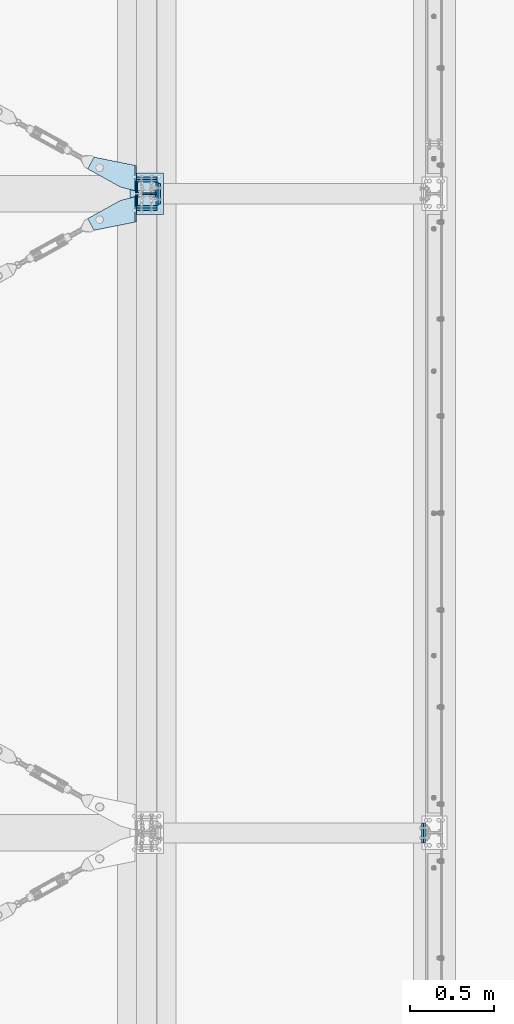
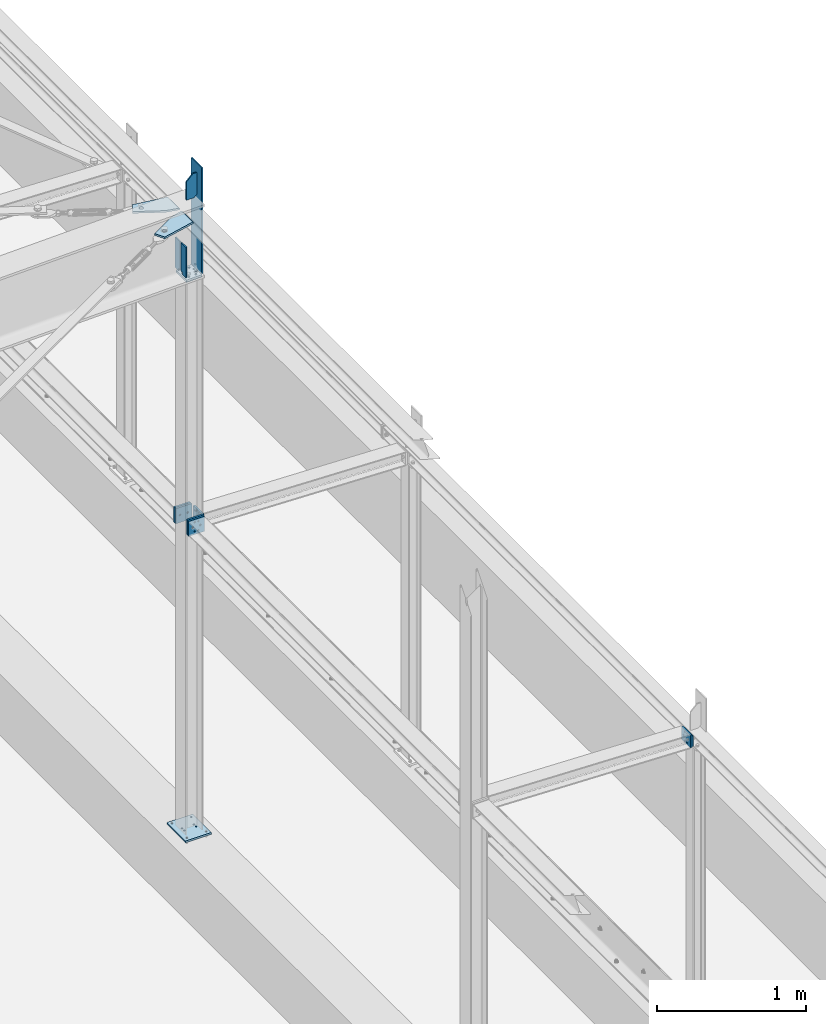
# One storey, part 44 of 476: 15 plates, 60 openings.
"""IFC2X3 building model written with IfcOpenShell, lengths in millimetres."""

from ifc_helpers import new_model, entity, si_unit, converted_unit, point, frame, frame_2d, origin, origin_with_axes, origin_2d_with_axis, place, context, project, spatial, polyline, circle_curve, line_curve, trimmed, segment, composite_curve, circle, outline, extrude, material, layer, layer_set, element, save


model = new_model("IFC2X3")

# Units and contexts
model_context = context("Model", 3, precision=1e-09, world=origin_with_axes())
ifc_project = project(units=[si_unit("LENGTHUNIT", "METRE", prefix="MILLI"), si_unit("AREAUNIT", "SQUARE_METRE"), si_unit("VOLUMEUNIT", "CUBIC_METRE"), converted_unit("PLANEANGLEUNIT", "DEGREE", entity("IfcPlaneAngleMeasure", 0.01745329), si_unit("PLANEANGLEUNIT", "RADIAN"), dimensions=[0, 0, 0, 0, 0, 0, 0])], contexts=[model_context])

# Site, building, storey
site_placement = place(None, origin_with_axes())
site = spatial("IfcSite", under=ifc_project, at=site_placement, Name="mKR Teilneubau & Sanierung BA1 - Ostfildern", CompositionType="ELEMENT")
building_placement = place(site_placement, origin_with_axes())
building = spatial("IfcBuilding", under=site, at=building_placement, Name="Struktur 1", CompositionType="ELEMENT")
storey_placement = place(building_placement, origin_with_axes())
storey = spatial("IfcBuildingStorey", under=building, at=storey_placement, Name="Default Storey", CompositionType="ELEMENT", Elevation=0.0)

# Plate, openings
ifc_material = material(Name="S235JR")
ifc_layer_1 = layer(ifc_material, 15.0)
ifc_layer_set_1 = layer_set([ifc_layer_1], Name="S235JR")
plate_1_placement = place(None, frame((21903.92386925, -13603.67287897, 5627.158981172), z_axis=(-0.030019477, 0.0, 0.999549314), x_axis=(-0.999549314, 0.0, -0.030019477)))
plate_1 = element("IfcPlate", 1, at=plate_1_placement, inside=storey, material=ifc_layer_set_1, Name="-", ObjectType="-", context=model_context, shape_type="SweptSolid", body=[
    extrude(outline(polyline([(0.0, 0.0), (55.140356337, 0.0), (291.381008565, 130.729269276), (252.646618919, 200.726934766), (1e-09, 150.0), (0.0, 0.0)])), origin_with_axes(), (0.0, 0.0, -1.0), 15.0),
])
opening_1_placement = place(plate_1_placement, frame((55.140356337, 0.0, 0.01), z_axis=(0.0, 0.0, 1.0), x_axis=(0.874966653, 0.484183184, 0.0)))
element("IfcOpeningElement", 2, at=opening_1_placement, cuts=plate_1, ObjectType="Opening", context=model_context, shape_type="SweptSolid", body=[
    extrude(outline(composite_curve([segment(trimmed(line_curve((0.0, 0.0), (1.0, 0.0), 45.191234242), [point((0.0, 0.0))], [point((45.191234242, 0.0))], True, "CARTESIAN"), True, "CONTINUOUS"), segment(trimmed(circle_curve(frame_2d((45.191234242, 175.0), x_axis=(-1.0, 0.0)), 175.0), [point((45.191234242, 0.0))], [point((-39.540822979, 21.880835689))], False, "CARTESIAN"), True, "CONTINUOUS"), segment(trimmed(line_curve((-39.540822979, 21.880835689), (0.874966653, -0.484183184), 45.191234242), [point((-39.540822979, 21.880835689))], [point((0.0, 0.0))], True, "CARTESIAN"), True, "CONTINUOUS")], self_intersect=False)), origin(), (0.0, 0.0, -1.0), 15.02),
])
opening_2_placement = place(plate_1_placement, frame((0.0, -0.001, 0.0), z_axis=(0.0, 1.0, 0.0), x_axis=(1.0, 0.0, 0.0)))
element("IfcOpeningElement", 3, at=opening_2_placement, cuts=plate_1, ObjectType="Opening", context=model_context, shape_type="SweptSolid", body=[
    extrude(outline(polyline([(0.0, 0.0), (8.0, 0.0), (0.0, 8.0), (0.0, 0.0)])), origin(), (0.0, 0.0, 1.0), 151.628257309),
])
opening_3_placement = place(plate_1_placement, frame((206.828395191, 129.656694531, -15.499404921), z_axis=(-2.2474e-05, 0.0, -1.0), x_axis=(-1.0, 0.0, 2.2474e-05)))
element("IfcOpeningElement", 4, at=opening_3_placement, cuts=plate_1, ObjectType="Opening", context=model_context, shape_type="SweptSolid", body=[
    extrude(circle(Radius=14.501, at=frame_2d((-12.687891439, 7.021140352), x_axis=(1.0, 0.0))), origin(), (0.0, 0.0, -1.0), 16.000000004),
])

plate_2_placement = place(None, frame((21903.92386925, -13567.67487897, 5627.158981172), z_axis=(0.030019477, 0.0, -0.999549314), x_axis=(-0.999549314, 0.0, -0.030019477)))
plate_2 = element("IfcPlate", 5, at=plate_2_placement, inside=storey, material=ifc_layer_set_1, Name="-", ObjectType="-", context=model_context, shape_type="SweptSolid", body=[
    extrude(outline(polyline([(0.0, 0.0), (55.140356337, 0.0), (291.381008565, 130.729269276), (252.646618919, 200.726934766), (1e-09, 150.0), (0.0, 0.0)])), origin_with_axes(), (0.0, 0.0, 1.0), 15.0),
])
opening_4_placement = place(plate_2_placement, frame((0.0, 0.0, -0.01), z_axis=(0.0, 0.0, 1.0), x_axis=(1.0, 0.0, 0.0)))
element("IfcOpeningElement", 6, at=opening_4_placement, cuts=plate_2, ObjectType="Opening", context=model_context, shape_type="SweptSolid", body=[
    extrude(outline(composite_curve([segment(trimmed(line_curve((55.140356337, 0.0), (0.874966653, 0.484183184), 45.191234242), [point((55.140356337, 0.0))], [point((94.681179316, 21.880835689))], True, "CARTESIAN"), True, "CONTINUOUS"), segment(trimmed(circle_curve(frame_2d((9.949122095, 175.0), x_axis=(-1.0, 0.0)), 175.0), [point((94.681179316, 21.880835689))], [point((9.949122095, 0.0))], False, "CARTESIAN"), True, "CONTINUOUS"), segment(trimmed(line_curve((9.949122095, 0.0), (1.0, 0.0), 45.191234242), [point((9.949122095, 0.0))], [point((55.140356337, 0.0))], True, "CARTESIAN"), True, "CONTINUOUS")], self_intersect=False)), origin(), (0.0, 0.0, 1.0), 15.02),
])
opening_5_placement = place(plate_2_placement, frame((1e-09, 151.607257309, 0.0), z_axis=(0.0, -1.0, 0.0), x_axis=(1.0, 0.0, 0.0)))
element("IfcOpeningElement", 7, at=opening_5_placement, cuts=plate_2, ObjectType="Opening", context=model_context, shape_type="SweptSolid", body=[
    extrude(outline(polyline([(0.0, 0.0), (8.0, 0.0), (0.0, 8.0), (0.0, 0.0)])), origin(), (0.0, 0.0, 1.0), 151.628257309),
])
opening_6_placement = place(plate_2_placement, frame((219.516286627, 136.677834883, 15.499690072), z_axis=(2.2474e-05, 0.0, -1.0), x_axis=(0.874966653, 0.484183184, 1.9664e-05)))
element("IfcOpeningElement", 8, at=opening_6_placement, cuts=plate_2, ObjectType="Opening", context=model_context, shape_type="SweptSolid", body=[
    extrude(circle(Radius=14.501, at=origin_2d_with_axis()), origin(), (0.0, 0.0, 1.0), 16.000000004),
])

ifc_layer_2 = layer(ifc_material, 10.0)
ifc_layer_set_2 = layer_set([ifc_layer_2], Name="S235JR")
plate_3_placement = place(None, frame((21942.108764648, -13580.67387897, 5888.306606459), z_axis=(0.0, 1.0, 0.0), x_axis=(1.0, 0.0, 0.0)))
plate_3 = element("IfcPlate", 9, at=plate_3_placement, inside=storey, material=ifc_layer_set_2, Name="-", ObjectType="-", context=model_context, shape_type="SweptSolid", body=[
    extrude(outline(polyline([(0.0, 0.0), (80.0, 0.0), (80.0, 197.595559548), (0.0, 200.0), (0.0, 0.0)])), origin_with_axes(), (0.0, 0.0, -1.0), 10.0),
])
opening_7_placement = place(plate_3_placement, frame((0.0, 0.0, 0.01), z_axis=(0.0, 0.0, 1.0), x_axis=(1.0, 0.0, 0.0)))
element("IfcOpeningElement", 10, at=opening_7_placement, cuts=plate_3, ObjectType="Opening", context=model_context, shape_type="SweptSolid", body=[
    extrude(outline(polyline([(0.0, 0.0), (50.0, 0.0), (0.0, 50.0), (0.0, 0.0)])), origin(), (0.0, 0.0, -1.0), 10.02),
])
opening_8_placement = place(plate_3_placement, frame((80.0, 197.595559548, 0.01), z_axis=(0.0, 0.0, 1.0), x_axis=(-0.999548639, 0.03004194, 0.0)))
element("IfcOpeningElement", 11, at=opening_8_placement, cuts=plate_3, ObjectType="Opening", context=model_context, shape_type="SweptSolid", body=[
    extrude(outline(polyline([(0.0, 0.0), (20.0, 0.0), (-0.600838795, 19.990972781), (0.0, 0.0)])), origin(), (0.0, 0.0, -1.0), 10.02),
])

plate_4_placement = place(None, frame((22047.108764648, -13585.67387897, 3065.630813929), z_axis=(-1.0, 0.0, 0.0), x_axis=(0.0, 0.0, -1.0)))
plate_4 = element("IfcPlate", 12, at=plate_4_placement, inside=storey, material=ifc_layer_set_1, Name="Endplate", ObjectType="Endplate", context=model_context, shape_type="SweptSolid", body=[
    extrude(outline(polyline([(-52.0, -60.0), (52.0, -60.0), (52.0, 60.0), (-52.0, 60.0), (-52.0, -60.0)])), origin_with_axes(), (0.0, 0.0, 1.0), 15.0),
])
opening_9_placement = place(plate_4_placement, frame((-37.020699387, 14.5, 15.5), z_axis=(0.0, 0.0, -1.0), x_axis=(-1.0, 0.0, 0.0)))
element("IfcOpeningElement", 13, at=opening_9_placement, cuts=plate_4, ObjectType="Opening", context=model_context, shape_type="SweptSolid", body=[
    extrude(circle(Radius=6.001, at=origin_2d_with_axis()), origin(), (0.0, 0.0, 1.0), 16.0),
])
opening_10_placement = place(plate_4_placement, frame((37.020699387, 14.5, 15.5), z_axis=(0.0, 0.0, -1.0), x_axis=(-1.0, 0.0, 0.0)))
element("IfcOpeningElement", 14, at=opening_10_placement, cuts=plate_4, ObjectType="Opening", context=model_context, shape_type="SweptSolid", body=[
    extrude(circle(Radius=6.001, at=origin_2d_with_axis()), origin(), (0.0, 0.0, 1.0), 16.0),
])
opening_11_placement = place(plate_4_placement, frame((37.020699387, -14.5, 15.5), z_axis=(0.0, 0.0, -1.0), x_axis=(-1.0, 0.0, 0.0)))
element("IfcOpeningElement", 15, at=opening_11_placement, cuts=plate_4, ObjectType="Opening", context=model_context, shape_type="SweptSolid", body=[
    extrude(circle(Radius=6.001, at=origin_2d_with_axis()), origin(), (0.0, 0.0, 1.0), 16.0),
])
opening_12_placement = place(plate_4_placement, frame((-37.020699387, -14.5, 15.5), z_axis=(0.0, 0.0, -1.0), x_axis=(-1.0, 0.0, 0.0)))
element("IfcOpeningElement", 16, at=opening_12_placement, cuts=plate_4, ObjectType="Opening", context=model_context, shape_type="SweptSolid", body=[
    extrude(circle(Radius=6.001, at=origin_2d_with_axis()), origin(), (0.0, 0.0, 1.0), 16.0),
])
opening_13_placement = place(plate_4_placement, frame((25.0, -35.0, 15.5), z_axis=(0.0, 0.0, -1.0), x_axis=(0.0, -1.0, 0.0)))
element("IfcOpeningElement", 17, at=opening_13_placement, cuts=plate_4, ObjectType="Opening", context=model_context, shape_type="SweptSolid", body=[
    extrude(circle(Radius=7.001, at=origin_2d_with_axis()), origin(), (0.0, 0.0, 1.0), 16.0),
])
opening_14_placement = place(plate_4_placement, frame((25.0, 35.0, 15.5), z_axis=(0.0, 0.0, -1.0), x_axis=(0.0, 1.0, 0.0)))
element("IfcOpeningElement", 18, at=opening_14_placement, cuts=plate_4, ObjectType="Opening", context=model_context, shape_type="SweptSolid", body=[
    extrude(circle(Radius=7.001, at=origin_2d_with_axis()), origin(), (0.0, 0.0, 1.0), 16.0),
])
opening_15_placement = place(plate_4_placement, frame((-25.0, 35.0, 15.5), z_axis=(0.0, 0.0, -1.0), x_axis=(0.0, 1.0, 0.0)))
element("IfcOpeningElement", 19, at=opening_15_placement, cuts=plate_4, ObjectType="Opening", context=model_context, shape_type="SweptSolid", body=[
    extrude(circle(Radius=7.001, at=origin_2d_with_axis()), origin(), (0.0, 0.0, 1.0), 16.0),
])
opening_16_placement = place(plate_4_placement, frame((-25.0, -35.0, 15.5), z_axis=(0.0, 0.0, -1.0), x_axis=(0.0, -1.0, 0.0)))
element("IfcOpeningElement", 20, at=opening_16_placement, cuts=plate_4, ObjectType="Opening", context=model_context, shape_type="SweptSolid", body=[
    extrude(circle(Radius=7.001, at=origin_2d_with_axis()), origin(), (0.0, 0.0, 1.0), 16.0),
])

plate_5_placement = place(None, frame((22065.608764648, -13460.67387897, 540.0), z_axis=(0.0, 0.0, -1.0), x_axis=(0.0, -1.0, 0.0)))
plate_5 = element("IfcPlate", 21, at=plate_5_placement, inside=storey, material=ifc_layer_set_1, Name="Baseplate", ObjectType="Baseplate", context=model_context, shape_type="SweptSolid", body=[
    extrude(outline(polyline([(0.0, 0.0), (250.0, 0.0), (250.0, 200.0), (0.0, 200.0), (0.0, 0.0)])), origin_with_axes(), (0.0, 0.0, 1.0), 15.0),
])
opening_17_placement = place(plate_5_placement, frame((110.25, 146.0, 15.5), z_axis=(0.0, 0.0, -1.0), x_axis=(0.0, -1.0, 0.0)))
element("IfcOpeningElement", 22, at=opening_17_placement, cuts=plate_5, ObjectType="Opening", context=model_context, shape_type="SweptSolid", body=[
    extrude(circle(Radius=6.001, at=origin_2d_with_axis()), origin(), (0.0, 0.0, 1.0), 16.0),
])
opening_18_placement = place(plate_5_placement, frame((110.25, 54.0, 15.5), z_axis=(0.0, 0.0, -1.0), x_axis=(0.0, -1.0, 0.0)))
element("IfcOpeningElement", 23, at=opening_18_placement, cuts=plate_5, ObjectType="Opening", context=model_context, shape_type="SweptSolid", body=[
    extrude(circle(Radius=6.001, at=origin_2d_with_axis()), origin(), (0.0, 0.0, 1.0), 16.0),
])
opening_19_placement = place(plate_5_placement, frame((139.75, 54.0, 15.5), z_axis=(0.0, 0.0, -1.0), x_axis=(0.0, -1.0, 0.0)))
element("IfcOpeningElement", 24, at=opening_19_placement, cuts=plate_5, ObjectType="Opening", context=model_context, shape_type="SweptSolid", body=[
    extrude(circle(Radius=6.001, at=origin_2d_with_axis()), origin(), (0.0, 0.0, 1.0), 16.0),
])
opening_20_placement = place(plate_5_placement, frame((139.75, 146.0, 15.5), z_axis=(0.0, 0.0, -1.0), x_axis=(0.0, -1.0, 0.0)))
element("IfcOpeningElement", 25, at=opening_20_placement, cuts=plate_5, ObjectType="Opening", context=model_context, shape_type="SweptSolid", body=[
    extrude(circle(Radius=6.001, at=origin_2d_with_axis()), origin(), (0.0, 0.0, 1.0), 16.0),
])
opening_21_placement = place(plate_5_placement, frame((125.0, 100.0, 15.5), z_axis=(0.0, 0.0, -1.0), x_axis=(1.0, 0.0, 0.0)))
element("IfcOpeningElement", 26, at=opening_21_placement, cuts=plate_5, ObjectType="Opening", context=model_context, shape_type="SweptSolid", body=[
    extrude(circle(Radius=6.001, at=frame_2d((100.0, 75.0), x_axis=(1.0, 0.0))), origin(), (0.0, 0.0, 1.0), 16.0),
])
opening_22_placement = place(plate_5_placement, frame((125.0, 100.0, 15.5), z_axis=(0.0, 0.0, -1.0), x_axis=(1.0, 0.0, 0.0)))
element("IfcOpeningElement", 27, at=opening_22_placement, cuts=plate_5, ObjectType="Opening", context=model_context, shape_type="SweptSolid", body=[
    extrude(circle(Radius=6.001, at=frame_2d((-100.0, 75.0), x_axis=(1.0, 0.0))), origin(), (0.0, 0.0, 1.0), 16.0),
])
opening_23_placement = place(plate_5_placement, frame((125.0, 100.0, 15.5), z_axis=(0.0, 0.0, -1.0), x_axis=(1.0, 0.0, 0.0)))
element("IfcOpeningElement", 28, at=opening_23_placement, cuts=plate_5, ObjectType="Opening", context=model_context, shape_type="SweptSolid", body=[
    extrude(circle(Radius=6.001, at=frame_2d((100.0, -75.0), x_axis=(1.0, 0.0))), origin(), (0.0, 0.0, 1.0), 16.0),
])
opening_24_placement = place(plate_5_placement, frame((125.0, 100.0, 15.5), z_axis=(0.0, 0.0, -1.0), x_axis=(1.0, 0.0, 0.0)))
element("IfcOpeningElement", 29, at=opening_24_placement, cuts=plate_5, ObjectType="Opening", context=model_context, shape_type="SweptSolid", body=[
    extrude(circle(Radius=6.001, at=frame_2d((-100.0, -75.0), x_axis=(1.0, 0.0))), origin(), (0.0, 0.0, 1.0), 16.0),
])

plate_6_placement = place(None, frame((21965.608780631, -13485.67387897, 3068.000017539), z_axis=(0.0, -1.0, 0.0), x_axis=(0.0, 0.0, -1.0)))
plate_6 = element("IfcPlate", 30, at=plate_6_placement, inside=storey, material=ifc_layer_set_1, Name="Endplate#1", ObjectType="Endplate#1", context=model_context, shape_type="SweptSolid", body=[
    extrude(outline(polyline([(-62.0, -62.0), (62.0, -62.0), (62.0, 62.0), (-62.0, 62.0), (-62.0, -62.0)])), origin_with_axes(), (0.0, 0.0, 1.0), 15.0),
])
opening_25_placement = place(plate_6_placement, frame((37.0, -14.5, 15.5), z_axis=(0.0, 0.0, -1.0), x_axis=(1.0, 0.0, 0.0)))
element("IfcOpeningElement", 31, at=opening_25_placement, cuts=plate_6, ObjectType="Opening", context=model_context, shape_type="SweptSolid", body=[
    extrude(circle(Radius=6.001, at=origin_2d_with_axis()), origin(), (0.0, 0.0, 1.0), 16.0),
])
opening_26_placement = place(plate_6_placement, frame((-37.0, -14.5, 15.5), z_axis=(0.0, 0.0, -1.0), x_axis=(1.0, 0.0, 0.0)))
element("IfcOpeningElement", 32, at=opening_26_placement, cuts=plate_6, ObjectType="Opening", context=model_context, shape_type="SweptSolid", body=[
    extrude(circle(Radius=6.001, at=origin_2d_with_axis()), origin(), (0.0, 0.0, 1.0), 16.0),
])
opening_27_placement = place(plate_6_placement, frame((-37.0, 14.5, 15.5), z_axis=(0.0, 0.0, -1.0), x_axis=(1.0, 0.0, 0.0)))
element("IfcOpeningElement", 33, at=opening_27_placement, cuts=plate_6, ObjectType="Opening", context=model_context, shape_type="SweptSolid", body=[
    extrude(circle(Radius=6.001, at=origin_2d_with_axis()), origin(), (0.0, 0.0, 1.0), 16.0),
])
opening_28_placement = place(plate_6_placement, frame((37.0, 14.5, 15.5), z_axis=(0.0, 0.0, -1.0), x_axis=(1.0, 0.0, 0.0)))
element("IfcOpeningElement", 34, at=opening_28_placement, cuts=plate_6, ObjectType="Opening", context=model_context, shape_type="SweptSolid", body=[
    extrude(circle(Radius=6.001, at=origin_2d_with_axis()), origin(), (0.0, 0.0, 1.0), 16.0),
])
opening_29_placement = place(plate_6_placement, frame((0.0, -30.0, 15.5), z_axis=(0.0, 0.0, -1.0), x_axis=(0.0, -1.0, 0.0)))
element("IfcOpeningElement", 35, at=opening_29_placement, cuts=plate_6, ObjectType="Opening", context=model_context, shape_type="SweptSolid", body=[
    extrude(circle(Radius=7.001, at=origin_2d_with_axis()), origin(), (0.0, 0.0, 1.0), 16.0),
])
opening_30_placement = place(plate_6_placement, frame((0.0, 30.0, 15.5), z_axis=(0.0, 0.0, -1.0), x_axis=(-1.0, 0.0, 0.0)))
element("IfcOpeningElement", 36, at=opening_30_placement, cuts=plate_6, ObjectType="Opening", context=model_context, shape_type="SweptSolid", body=[
    extrude(circle(Radius=7.001, at=origin_2d_with_axis()), origin(), (0.0, 0.0, 1.0), 16.0),
])

plate_7_placement = place(None, frame((21965.608764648, -13515.67387897, 3068.000017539), z_axis=(0.0, 1.0, 0.0), x_axis=(1.0, 0.0, 0.0)))
plate_7 = element("IfcPlate", 37, at=plate_7_placement, inside=storey, material=ifc_layer_set_1, Name="T-plate", ObjectType="T-plate", context=model_context, shape_type="SweptSolid", body=[
    extrude(outline(polyline([(-62.0, -62.0), (62.0, -62.0), (62.0, 62.0), (-62.0, 62.0), (-62.0, -62.0)])), origin_with_axes(), (0.0, 0.0, 1.0), 15.0),
])
opening_31_placement = place(plate_7_placement, frame((-29.999984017, 0.0, -0.5), z_axis=(0.0, 0.0, 1.0), x_axis=(-1.0, 0.0, 0.0)))
element("IfcOpeningElement", 38, at=opening_31_placement, cuts=plate_7, ObjectType="Opening", context=model_context, shape_type="SweptSolid", body=[
    extrude(circle(Radius=7.001, at=origin_2d_with_axis()), origin(), (0.0, 0.0, 1.0), 16.0),
])
opening_32_placement = place(plate_7_placement, frame((30.000015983, 0.0, -0.5), z_axis=(0.0, 0.0, 1.0), x_axis=(0.0, -1.0, 0.0)))
element("IfcOpeningElement", 39, at=opening_32_placement, cuts=plate_7, ObjectType="Opening", context=model_context, shape_type="SweptSolid", body=[
    extrude(circle(Radius=7.001, at=origin_2d_with_axis()), origin(), (0.0, 0.0, 1.0), 16.0),
])

plate_8_placement = place(None, frame((21965.608780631, -13685.67387897, 3068.000017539), z_axis=(0.0, 1.0, 0.0), x_axis=(0.0, 0.0, -1.0)))
plate_8 = element("IfcPlate", 40, at=plate_8_placement, inside=storey, material=ifc_layer_set_1, Name="Endplate#1", ObjectType="Endplate#1", context=model_context, shape_type="SweptSolid", body=[
    extrude(outline(polyline([(-62.0, -62.0), (62.0, -62.0), (62.0, 62.0), (-62.0, 62.0), (-62.0, -62.0)])), origin_with_axes(), (0.0, 0.0, 1.0), 15.0),
])
opening_33_placement = place(plate_8_placement, frame((37.0, 14.5, 15.5), z_axis=(0.0, 0.0, -1.0), x_axis=(-1.0, 0.0, 0.0)))
element("IfcOpeningElement", 41, at=opening_33_placement, cuts=plate_8, ObjectType="Opening", context=model_context, shape_type="SweptSolid", body=[
    extrude(circle(Radius=6.001, at=origin_2d_with_axis()), origin(), (0.0, 0.0, 1.0), 16.0),
])
opening_34_placement = place(plate_8_placement, frame((-37.0, 14.5, 15.5), z_axis=(0.0, 0.0, -1.0), x_axis=(-1.0, 0.0, 0.0)))
element("IfcOpeningElement", 42, at=opening_34_placement, cuts=plate_8, ObjectType="Opening", context=model_context, shape_type="SweptSolid", body=[
    extrude(circle(Radius=6.001, at=origin_2d_with_axis()), origin(), (0.0, 0.0, 1.0), 16.0),
])
opening_35_placement = place(plate_8_placement, frame((-37.0, -14.5, 15.5), z_axis=(0.0, 0.0, -1.0), x_axis=(-1.0, 0.0, 0.0)))
element("IfcOpeningElement", 43, at=opening_35_placement, cuts=plate_8, ObjectType="Opening", context=model_context, shape_type="SweptSolid", body=[
    extrude(circle(Radius=6.001, at=origin_2d_with_axis()), origin(), (0.0, 0.0, 1.0), 16.0),
])
opening_36_placement = place(plate_8_placement, frame((37.0, -14.5, 15.5), z_axis=(0.0, 0.0, -1.0), x_axis=(-1.0, 0.0, 0.0)))
element("IfcOpeningElement", 44, at=opening_36_placement, cuts=plate_8, ObjectType="Opening", context=model_context, shape_type="SweptSolid", body=[
    extrude(circle(Radius=6.001, at=origin_2d_with_axis()), origin(), (0.0, 0.0, 1.0), 16.0),
])
opening_37_placement = place(plate_8_placement, frame((0.0, 30.0, 15.5), z_axis=(0.0, 0.0, -1.0), x_axis=(-1.0, 0.0, 0.0)))
element("IfcOpeningElement", 45, at=opening_37_placement, cuts=plate_8, ObjectType="Opening", context=model_context, shape_type="SweptSolid", body=[
    extrude(circle(Radius=7.001, at=origin_2d_with_axis()), origin(), (0.0, 0.0, 1.0), 16.0),
])
opening_38_placement = place(plate_8_placement, frame((0.0, -30.0, 15.5), z_axis=(0.0, 0.0, -1.0), x_axis=(0.0, -1.0, 0.0)))
element("IfcOpeningElement", 46, at=opening_38_placement, cuts=plate_8, ObjectType="Opening", context=model_context, shape_type="SweptSolid", body=[
    extrude(circle(Radius=7.001, at=origin_2d_with_axis()), origin(), (0.0, 0.0, 1.0), 16.0),
])

plate_9_placement = place(None, frame((21965.608764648, -13655.67387897, 3068.000017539), z_axis=(0.0, -1.0, 0.0), x_axis=(-1.0, 0.0, 0.0)))
plate_9 = element("IfcPlate", 47, at=plate_9_placement, inside=storey, material=ifc_layer_set_1, Name="T-plate", ObjectType="T-plate", context=model_context, shape_type="SweptSolid", body=[
    extrude(outline(polyline([(-62.0, -62.0), (62.0, -62.0), (62.0, 62.0), (-62.0, 62.0), (-62.0, -62.0)])), origin_with_axes(), (0.0, 0.0, 1.0), 15.0),
])
opening_39_placement = place(plate_9_placement, frame((29.999984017, 0.0, -0.5), z_axis=(0.0, 0.0, 1.0), x_axis=(0.0, -1.0, 0.0)))
element("IfcOpeningElement", 48, at=opening_39_placement, cuts=plate_9, ObjectType="Opening", context=model_context, shape_type="SweptSolid", body=[
    extrude(circle(Radius=7.001, at=origin_2d_with_axis()), origin(), (0.0, 0.0, 1.0), 16.0),
])
opening_40_placement = place(plate_9_placement, frame((-30.000015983, 0.0, -0.5), z_axis=(0.0, 0.0, 1.0), x_axis=(-1.0, 0.0, 0.0)))
element("IfcOpeningElement", 49, at=opening_40_placement, cuts=plate_9, ObjectType="Opening", context=model_context, shape_type="SweptSolid", body=[
    extrude(circle(Radius=7.001, at=origin_2d_with_axis()), origin(), (0.0, 0.0, 1.0), 16.0),
])

# Plate
plate_10_placement = place(None, frame((22022.108764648, -13655.67387897, 5095.440131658), z_axis=(1.0, 0.0, 0.0), x_axis=(0.0, 1.0, 0.0)))
element("IfcPlate", 50, at=plate_10_placement, inside=storey, material=ifc_layer_set_2, Name="Coverplate", ObjectType="Coverplate", context=model_context, shape_type="SweptSolid", body=[
    extrude(outline(polyline([(0.0, 0.0), (140.0, 0.0), (140.0, 870.270938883), (0.0, 870.270938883), (0.0, 0.0)])), origin_with_axes(), (0.0, 0.0, 1.0), 10.0),
])

# Plate, openings
ifc_layer_3 = layer(ifc_material, 20.0)
ifc_layer_set_3 = layer_set([ifc_layer_3], Name="S235JR")
plate_11_placement = place(None, frame((22027.111021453, -13655.67387897, 5070.581445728), z_axis=(-0.030041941, 0.0, 0.999548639), x_axis=(0.0, 1.0, 0.0)))
plate_11 = element("IfcPlate", 51, at=plate_11_placement, inside=storey, material=ifc_layer_set_3, Name="Endplate", ObjectType="Endplate", context=model_context, shape_type="SweptSolid", body=[
    extrude(outline(polyline([(0.0, 0.0), (140.0, 0.0), (140.0, 123.060058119), (0.0, 123.060058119), (0.0, 0.0)])), origin_with_axes(), (0.0, 0.0, 1.0), 20.0),
])
opening_41_placement = place(plate_11_placement, frame((84.75, 107.556219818, 20.5), z_axis=(0.0, 0.0, -1.0), x_axis=(0.0, 1.0, 0.0)))
element("IfcOpeningElement", 52, at=opening_41_placement, cuts=plate_11, ObjectType="Opening", context=model_context, shape_type="SweptSolid", body=[
    extrude(circle(Radius=6.001, at=origin_2d_with_axis()), origin(), (0.0, 0.0, 1.0), 21.0),
])
opening_42_placement = place(plate_11_placement, frame((84.75, 15.503838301, 20.5), z_axis=(0.0, 0.0, -1.0), x_axis=(0.0, 1.0, 0.0)))
element("IfcOpeningElement", 53, at=opening_42_placement, cuts=plate_11, ObjectType="Opening", context=model_context, shape_type="SweptSolid", body=[
    extrude(circle(Radius=6.001, at=origin_2d_with_axis()), origin(), (0.0, 0.0, 1.0), 21.0),
])
opening_43_placement = place(plate_11_placement, frame((55.25, 15.503838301, 20.5), z_axis=(0.0, 0.0, -1.0), x_axis=(0.0, 1.0, 0.0)))
element("IfcOpeningElement", 54, at=opening_43_placement, cuts=plate_11, ObjectType="Opening", context=model_context, shape_type="SweptSolid", body=[
    extrude(circle(Radius=6.001, at=origin_2d_with_axis()), origin(), (0.0, 0.0, 1.0), 21.0),
])
opening_44_placement = place(plate_11_placement, frame((55.25, 107.556219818, 20.5), z_axis=(0.0, 0.0, -1.0), x_axis=(0.0, 1.0, 0.0)))
element("IfcOpeningElement", 55, at=opening_44_placement, cuts=plate_11, ObjectType="Opening", context=model_context, shape_type="SweptSolid", body=[
    extrude(circle(Radius=6.001, at=origin_2d_with_axis()), origin(), (0.0, 0.0, 1.0), 21.0),
])
opening_45_placement = place(plate_11_placement, frame((17.999, 89.03, -0.5), z_axis=(0.0, 0.0, -1.0), x_axis=(-1.0, 0.0, 0.0)))
element("IfcOpeningElement", 56, at=opening_45_placement, cuts=plate_11, ObjectType="Opening", context=model_context, shape_type="SweptSolid", body=[
    extrude(circle(Radius=7.001, at=frame_2d((-7.001, 0.0), x_axis=(1.0, 0.0))), origin(), (0.0, 0.0, -1.0), 21.0),
])
opening_46_placement = place(plate_11_placement, frame((107.999, 89.03, -0.5), z_axis=(0.0, 0.0, -1.0), x_axis=(-1.0, 0.0, 0.0)))
element("IfcOpeningElement", 57, at=opening_46_placement, cuts=plate_11, ObjectType="Opening", context=model_context, shape_type="SweptSolid", body=[
    extrude(circle(Radius=7.001, at=frame_2d((-7.001, 0.0), x_axis=(1.0, 0.0))), origin(), (0.0, 0.0, -1.0), 21.0),
])
opening_47_placement = place(plate_11_placement, frame((17.999, 34.03, -0.5), z_axis=(0.0, 0.0, -1.0), x_axis=(-1.0, 0.0, 0.0)))
element("IfcOpeningElement", 58, at=opening_47_placement, cuts=plate_11, ObjectType="Opening", context=model_context, shape_type="SweptSolid", body=[
    extrude(circle(Radius=7.001, at=frame_2d((-7.001, 0.0), x_axis=(1.0, 0.0))), origin(), (0.0, 0.0, -1.0), 21.0),
])
opening_48_placement = place(plate_11_placement, frame((107.999, 34.03, -0.5), z_axis=(0.0, 0.0, -1.0), x_axis=(-1.0, 0.0, 0.0)))
element("IfcOpeningElement", 59, at=opening_48_placement, cuts=plate_11, ObjectType="Opening", context=model_context, shape_type="SweptSolid", body=[
    extrude(circle(Radius=7.001, at=frame_2d((-7.001, 0.0), x_axis=(1.0, 0.0))), origin(), (0.0, 0.0, -1.0), 21.0),
])

plate_12_placement = place(None, frame((21909.108764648, -13591.67387897, 5107.553116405), z_axis=(-1.0, 0.0, 0.0), x_axis=(0.0, -1.0, 0.0)))
plate_12 = element("IfcPlate", 60, at=plate_12_placement, inside=storey, material=ifc_layer_set_2, Name="Stiffener#2", ObjectType="Stiffener#2", context=model_context, shape_type="SweptSolid", body=[
    extrude(outline(polyline([(0.0, 0.0), (65.0, 0.0), (65.0, 250.0), (0.0, 250.0), (0.0, 0.0)])), origin_with_axes(), (0.0, 0.0, 1.0), 10.0),
])
opening_49_placement = place(plate_12_placement, frame((0.0, 0.0, -0.01), z_axis=(0.0, 0.0, 1.0), x_axis=(1.0, 0.0, 0.0)))
element("IfcOpeningElement", 61, at=opening_49_placement, cuts=plate_12, ObjectType="Opening", context=model_context, shape_type="SweptSolid", body=[
    extrude(outline(composite_curve([segment(trimmed(line_curve((0.0, 0.0), (1.0, 0.0), 25.0), [point((0.0, 0.0))], [point((25.0, 0.0))], True, "CARTESIAN"), True, "CONTINUOUS"), segment(trimmed(circle_curve(frame_2d((25.0, 25.0), x_axis=(-1.0, 0.0)), 25.0), [point((25.0, 0.0))], [point((0.0, 25.0))], False, "CARTESIAN"), True, "CONTINUOUS"), segment(trimmed(line_curve((0.0, 25.0), (0.0, -1.0), 25.0), [point((0.0, 25.0))], [point((0.0, 0.0))], True, "CARTESIAN"), True, "CONTINUOUS")], self_intersect=False)), origin(), (0.0, 0.0, 1.0), 10.02),
])
opening_50_placement = place(plate_12_placement, frame((24.0, 22.198767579, -0.5), z_axis=(0.0, 0.0, 1.0), x_axis=(0.0, -1.0, 0.0)))
element("IfcOpeningElement", 62, at=opening_50_placement, cuts=plate_12, ObjectType="Opening", context=model_context, shape_type="SweptSolid", body=[
    extrude(circle(Radius=7.001, at=frame_2d((7.0, -7.0), x_axis=(1.0, 0.0))), origin(), (0.0, 0.0, 1.0), 11.0),
])

plate_13_placement = place(None, frame((21909.108764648, -13514.67387897, 5107.553116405), z_axis=(-1.0, 0.0, 0.0), x_axis=(0.0, -1.0, 0.0)))
plate_13 = element("IfcPlate", 63, at=plate_13_placement, inside=storey, material=ifc_layer_set_2, Name="Stiffener#2", ObjectType="Stiffener#2", context=model_context, shape_type="SweptSolid", body=[
    extrude(outline(polyline([(0.0, 0.0), (65.0, 0.0), (65.0, 250.0), (0.0, 250.0), (0.0, 0.0)])), origin_with_axes(), (0.0, 0.0, 1.0), 10.0),
])
opening_51_placement = place(plate_13_placement, frame((0.0, 0.0, -0.01), z_axis=(0.0, 0.0, 1.0), x_axis=(1.0, 0.0, 0.0)))
element("IfcOpeningElement", 64, at=opening_51_placement, cuts=plate_13, ObjectType="Opening", context=model_context, shape_type="SweptSolid", body=[
    extrude(outline(composite_curve([segment(trimmed(line_curve((65.0, 0.0), (0.0, 1.0), 25.0), [point((65.0, 0.0))], [point((65.0, 25.0))], True, "CARTESIAN"), True, "CONTINUOUS"), segment(trimmed(circle_curve(frame_2d((40.0, 25.0), x_axis=(-1.0, 0.0)), 25.0), [point((65.0, 25.0))], [point((40.0, 0.0))], False, "CARTESIAN"), True, "CONTINUOUS"), segment(trimmed(line_curve((40.0, 0.0), (1.0, 0.0), 25.0), [point((40.0, 0.0))], [point((65.0, 0.0))], True, "CARTESIAN"), True, "CONTINUOUS")], self_intersect=False)), origin(), (0.0, 0.0, 1.0), 10.02),
])
opening_52_placement = place(plate_13_placement, frame((41.0, 22.198767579, -0.5), z_axis=(0.0, 0.0, 1.0), x_axis=(0.0, -1.0, 0.0)))
element("IfcOpeningElement", 65, at=opening_52_placement, cuts=plate_13, ObjectType="Opening", context=model_context, shape_type="SweptSolid", body=[
    extrude(circle(Radius=7.001, at=frame_2d((7.0, 7.0), x_axis=(1.0, 0.0))), origin(), (0.0, 0.0, 1.0), 11.0),
])

ifc_layer_4 = layer(ifc_material, 12.0)
ifc_layer_set_4 = layer_set([ifc_layer_4], Name="S235JR")
plate_14_placement = place(None, frame((23609.608764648, -17405.67387897, 3020.209302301), z_axis=(1.0, 0.0, 0.0), x_axis=(0.0, 0.0, -1.0)))
plate_14 = element("IfcPlate", 66, at=plate_14_placement, inside=storey, material=ifc_layer_set_4, Name="Endplate#1", ObjectType="Endplate#1", context=model_context, shape_type="SweptSolid", body=[
    extrude(outline(polyline([(-52.024078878, -60.0), (52.024078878, -60.0), (52.024078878, 60.0), (-52.024078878, 60.0), (-52.024078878, -60.0)])), origin_with_axes(), (0.0, 0.0, 1.0), 12.0),
])
opening_53_placement = place(plate_14_placement, frame((-37.020699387, -14.5, 12.5), z_axis=(0.0, 0.0, -1.0), x_axis=(1.0, 0.0, 0.0)))
element("IfcOpeningElement", 67, at=opening_53_placement, cuts=plate_14, ObjectType="Opening", context=model_context, shape_type="SweptSolid", body=[
    extrude(circle(Radius=6.001, at=origin_2d_with_axis()), origin(), (0.0, 0.0, 1.0), 13.0),
])
opening_54_placement = place(plate_14_placement, frame((37.020699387, -14.5, 12.5), z_axis=(0.0, 0.0, -1.0), x_axis=(1.0, 0.0, 0.0)))
element("IfcOpeningElement", 68, at=opening_54_placement, cuts=plate_14, ObjectType="Opening", context=model_context, shape_type="SweptSolid", body=[
    extrude(circle(Radius=6.001, at=origin_2d_with_axis()), origin(), (0.0, 0.0, 1.0), 13.0),
])
opening_55_placement = place(plate_14_placement, frame((37.020699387, 14.5, 12.5), z_axis=(0.0, 0.0, -1.0), x_axis=(1.0, 0.0, 0.0)))
element("IfcOpeningElement", 69, at=opening_55_placement, cuts=plate_14, ObjectType="Opening", context=model_context, shape_type="SweptSolid", body=[
    extrude(circle(Radius=6.001, at=origin_2d_with_axis()), origin(), (0.0, 0.0, 1.0), 13.0),
])
opening_56_placement = place(plate_14_placement, frame((-37.020699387, 14.5, 12.5), z_axis=(0.0, 0.0, -1.0), x_axis=(1.0, 0.0, 0.0)))
element("IfcOpeningElement", 70, at=opening_56_placement, cuts=plate_14, ObjectType="Opening", context=model_context, shape_type="SweptSolid", body=[
    extrude(circle(Radius=6.001, at=origin_2d_with_axis()), origin(), (0.0, 0.0, 1.0), 13.0),
])
opening_57_placement = place(plate_14_placement, frame((0.0, 30.0, 12.5), z_axis=(0.0, 0.0, -1.0), x_axis=(-1.0, 0.0, 0.0)))
element("IfcOpeningElement", 71, at=opening_57_placement, cuts=plate_14, ObjectType="Opening", context=model_context, shape_type="SweptSolid", body=[
    extrude(circle(Radius=7.001, at=origin_2d_with_axis()), origin(), (0.0, 0.0, 1.0), 13.0),
])
opening_58_placement = place(plate_14_placement, frame((0.0, -30.0, 12.5), z_axis=(0.0, 0.0, -1.0), x_axis=(0.0, -1.0, 0.0)))
element("IfcOpeningElement", 72, at=opening_58_placement, cuts=plate_14, ObjectType="Opening", context=model_context, shape_type="SweptSolid", body=[
    extrude(circle(Radius=7.001, at=origin_2d_with_axis()), origin(), (0.0, 0.0, 1.0), 13.0),
])

plate_15_placement = place(None, frame((23633.608764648, -17405.67387897, 3018.0), z_axis=(-1.0, 0.0, 0.0), x_axis=(0.0, -1.0, 0.0)))
plate_15 = element("IfcPlate", 73, at=plate_15_placement, inside=storey, material=ifc_layer_set_4, Name="T-plate", ObjectType="T-plate", context=model_context, shape_type="SweptSolid", body=[
    extrude(outline(polyline([(-60.0, -44.0), (60.0, -44.0), (60.0, 44.0), (-60.0, 44.0), (-60.0, -44.0)])), origin_with_axes(), (0.0, 0.0, 1.0), 12.0),
])
opening_59_placement = place(plate_15_placement, frame((-30.0, 2.209302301, -0.5), z_axis=(0.0, 0.0, 1.0), x_axis=(0.0, 1.0, 0.0)))
element("IfcOpeningElement", 74, at=opening_59_placement, cuts=plate_15, ObjectType="Opening", context=model_context, shape_type="SweptSolid", body=[
    extrude(circle(Radius=7.001, at=origin_2d_with_axis()), origin(), (0.0, 0.0, 1.0), 13.0),
])
opening_60_placement = place(plate_15_placement, frame((30.0, 2.209302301, -0.5), z_axis=(0.0, 0.0, 1.0), x_axis=(1.0, 0.0, 0.0)))
element("IfcOpeningElement", 75, at=opening_60_placement, cuts=plate_15, ObjectType="Opening", context=model_context, shape_type="SweptSolid", body=[
    extrude(circle(Radius=7.001, at=origin_2d_with_axis()), origin(), (0.0, 0.0, 1.0), 13.0),
])

save(model, "model.ifc")
